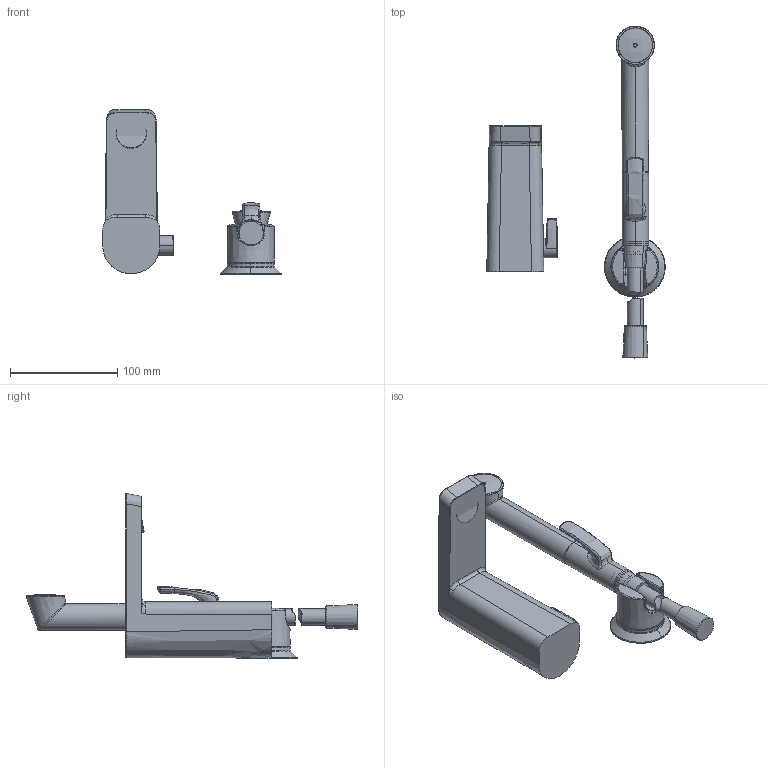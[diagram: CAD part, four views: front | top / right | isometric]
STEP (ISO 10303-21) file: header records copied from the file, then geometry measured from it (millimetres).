
FILE_DESCRIPTION (( 'STEP AP203' ), '1' );
FILE_NAME ('4816F(2023)+4816FZ-104(2023)+4816FZ-105(2023).STEP', '2023-05-03T04:44:20', ( '' ), ( '' ), 'SwSTEP 2.0', 'SolidWorks 2016', '' );
FILE_SCHEMA (( 'CONFIG_CONTROL_DESIGN' ));
Length unit declared in the file: millimetre
Products named in the file (1): 4816F(2023)+4816FZ-104(2023)+4816FZ-105(2023)
Bounding box: 166.51 x 309.75 x 153.93 mm (x, y, z)
Volume: 610380.5 mm3; surface area: 91600.8 mm2
Topology: 11 solids, 11 shells, 250 faces, 579 edges, 360 vertices
Faces by surface type: bspline 142, cylinder 35, plane 30, torus 22, cone 21
Entity records: 30408 total; most frequent: CARTESIAN_POINT 25674, ORIENTED_EDGE 1158, DIRECTION 686, EDGE_CURVE 579, VERTEX_POINT 360, AXIS2_PLACEMENT_3D 303, B_SPLINE_CURVE_WITH_KNOTS 284, EDGE_LOOP 259
